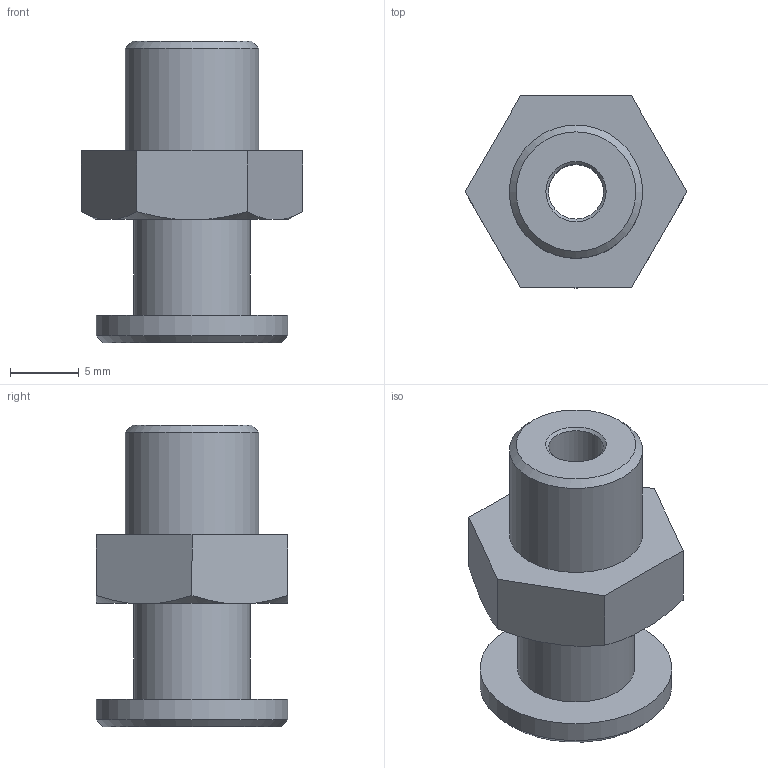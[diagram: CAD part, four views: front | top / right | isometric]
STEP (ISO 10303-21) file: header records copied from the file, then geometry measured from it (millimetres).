
FILE_DESCRIPTION((''),'2;1');
FILE_NAME('W:\Technik\Konstruktion\CAD-Daten\Vakuumsauger\270_\270.012\270.012.stp','2009-10-19T13:08:18',('MOswald'),(''),'Autodesk Inventor 2009','Autodesk Inventor 2009','');
FILE_SCHEMA(('AUTOMOTIVE_DESIGN { 1 0 10303 214 1 1 1 1 }'));
Length unit declared in the file: millimetre
Products named in the file (1): 270.012
Bounding box: 16.17 x 14 x 22 mm (x, y, z)
Volume: 1859.1 mm3; surface area: 1515 mm2
Topology: 1 solids, 1 shells, 25 faces, 56 edges, 36 vertices
Faces by surface type: plane 11, cone 10, cylinder 4
Full cylindrical faces by diameter (mm): 4 x1, 8.5 x1, 9.72 x1, 14 x1
Entity records: 674 total; most frequent: CARTESIAN_POINT 134, DIRECTION 106, ORIENTED_EDGE 96, EDGE_CURVE 48, AXIS2_PLACEMENT_3D 44, EDGE_LOOP 38, VERTEX_POINT 36, FACE_OUTER_BOUND 25
